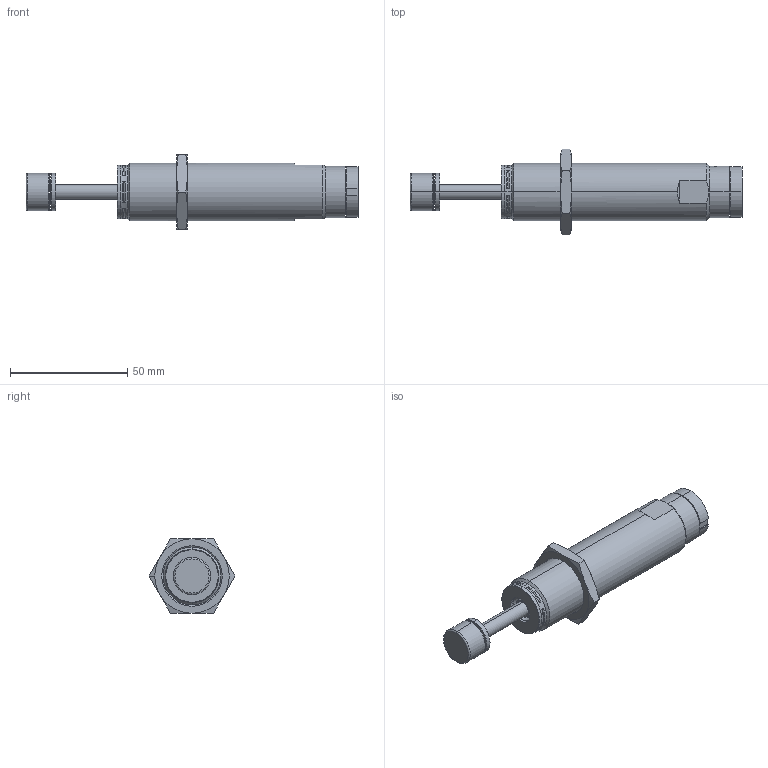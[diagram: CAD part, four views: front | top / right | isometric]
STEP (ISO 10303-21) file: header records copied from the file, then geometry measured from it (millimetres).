
FILE_DESCRIPTION (( 'STEP AP203' ), '1' );
FILE_NAME ('ECO OEM 1.0 MFB.STEP', '2014-09-25T19:11:25', ( 'ITT' ), ( 'ITT' ), 'SwSTEP 2.0', 'SolidWorks 2010', '' );
FILE_SCHEMA (( 'CONFIG_CONTROL_DESIGN' ));
Length unit declared in the file: inch
Products named in the file (1): ECO OEM 1.0 MFB
Bounding box: 141.6 x 36.66 x 31.75 mm (x, y, z)
Surface area: 13377.3 mm2 (no closed solid volume)
Topology: 0 solids, 14 shells, 149 faces, 378 edges, 249 vertices
Faces by surface type: plane 58, cone 44, cylinder 27, torus 18, sphere 2
Entity records: 4781 total; most frequent: CARTESIAN_POINT 1101, DIRECTION 807, ORIENTED_EDGE 664, EDGE_CURVE 373, AXIS2_PLACEMENT_3D 330, VERTEX_POINT 246, CIRCLE 180, EDGE_LOOP 175
